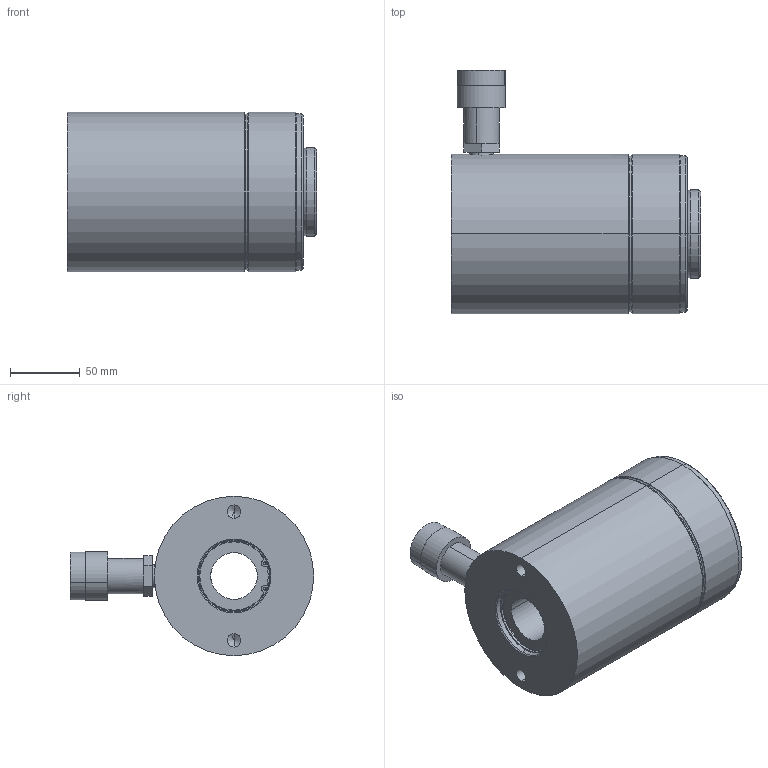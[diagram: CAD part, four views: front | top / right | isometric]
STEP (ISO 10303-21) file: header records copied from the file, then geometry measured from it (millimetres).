
FILE_DESCRIPTION((''),'2;1');
FILE_NAME('RCH-302','2015-03-03T',('mike.ward'),(''),'PRO/ENGINEER BY PARAMETRIC TECHNOLOGY CORPORATION, 2014200','PRO/ENGINEER BY PARAMETRIC TECHNOLOGY CORPORATION, 2014200','');
FILE_SCHEMA(('CONFIG_CONTROL_DESIGN'));
Length unit declared in the file: inch
Products named in the file (1): RCH-302
Bounding box: 178.45 x 174.02 x 113.95 mm (x, y, z)
Volume: 1573237.8 mm3; surface area: 145402.9 mm2
Topology: 1 solids, 2 shells, 218 faces, 479 edges, 286 vertices
Faces by surface type: cylinder 91, plane 48, cone 46, torus 33
Entity records: 6058 total; most frequent: DIRECTION 1196, CARTESIAN_POINT 1021, ORIENTED_EDGE 934, AXIS2_PLACEMENT_3D 513, EDGE_CURVE 467, CIRCLE 295, VERTEX_POINT 286, EDGE_LOOP 259
